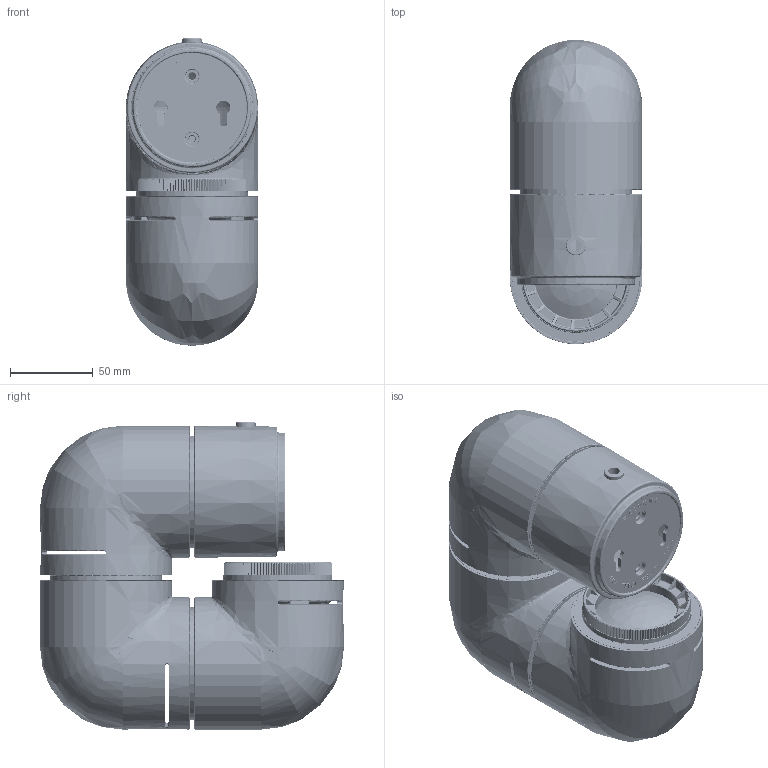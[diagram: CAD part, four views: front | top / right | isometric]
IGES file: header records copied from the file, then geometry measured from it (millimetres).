
Start section: SolidWorks IGES file using analytic representation for surfaces
Global section: file name: C:\SANTACOLE_PDM\Proyectos Catálogo\PROD-P17-005 -- LAMPARA TATU\6_Técnico comercial\3D\Tatu.IGS; native system: SolidWorks 2019; preprocessor: SolidWorks 2019; author: aina.morell; date: 200402.101311; units: millimetre
Bounding box: 80 x 184 x 185.95 mm (x, y, z)
Surface area: 290337.7 mm2 (no closed solid volume)
Topology: 0 solids, 0 shells, 5543 faces, 46346 edges, 46298 vertices
Faces by surface type: bspline 3770, revolution 1773
